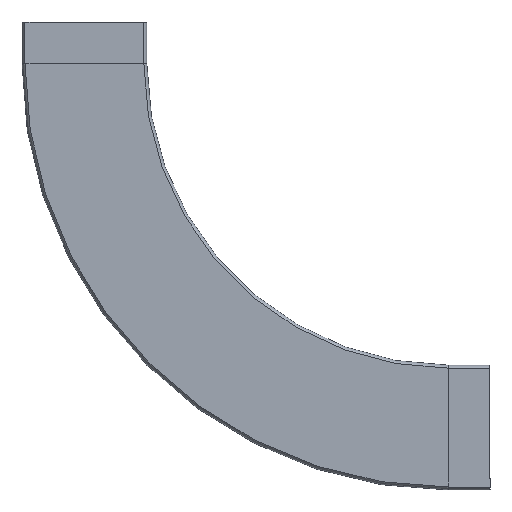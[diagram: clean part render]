
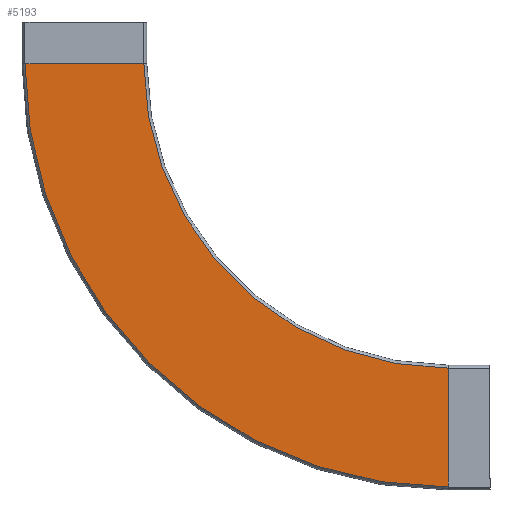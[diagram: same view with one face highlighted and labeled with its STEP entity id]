
A CAD part, front view. The second image highlights one B-rep face of the part: STEP entity #5193.
In plain terms, the highlighted planar face has unit normal (0, -1, 0).
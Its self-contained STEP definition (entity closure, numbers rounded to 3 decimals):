
#36 = DIRECTION ( 'NONE',  ( 0., 1., 0. ) ) ;
#72 = CARTESIAN_POINT ( 'NONE',  ( 350., -56.5, -40. ) ) ;
#200 = LINE ( 'NONE', #4228, #1975 ) ;
#205 = VERTEX_POINT ( 'NONE', #806 ) ;
#253 = CIRCLE ( 'NONE', #4535, 292.85 ) ;
#398 = VECTOR ( 'NONE', #874, 1000. ) ;
#401 = ORIENTED_EDGE ( 'NONE', *, *, #5624, .T. ) ;
#508 = DIRECTION ( 'NONE',  ( 0., 1., 0. ) ) ;
#806 = CARTESIAN_POINT ( 'NONE',  ( -57.15, -56.5, -40. ) ) ;
#874 = DIRECTION ( 'NONE',  ( -1., 0., 0. ) ) ;
#885 = LINE ( 'NONE', #3926, #398 ) ;
#958 = EDGE_CURVE ( 'NONE', #3505, #205, #4275, .T. ) ;
#1192 = DIRECTION ( 'NONE',  ( 0., 0., 1. ) ) ;
#1314 = VERTEX_POINT ( 'NONE', #2072 ) ;
#1398 = CARTESIAN_POINT ( 'NONE',  ( 350., -56.5, -447.15 ) ) ;
#1795 = EDGE_CURVE ( 'NONE', #3505, #1314, #200, .T. ) ;
#1975 = VECTOR ( 'NONE', #1192, 1000. ) ;
#2018 = DIRECTION ( 'NONE',  ( 0., 0., 1. ) ) ;
#2072 = CARTESIAN_POINT ( 'NONE',  ( 350., -56.5, -332.85 ) ) ;
#2224 = ORIENTED_EDGE ( 'NONE', *, *, #2365, .T. ) ;
#2294 = EDGE_LOOP ( 'NONE', ( #401, #2856, #3962, #2224 ) ) ;
#2302 = AXIS2_PLACEMENT_3D ( 'NONE', #2643, #36, #3544 ) ;
#2341 = DIRECTION ( 'NONE',  ( 0., 0., 1. ) ) ;
#2365 = EDGE_CURVE ( 'NONE', #1314, #2772, #253, .T. ) ;
#2643 = CARTESIAN_POINT ( 'NONE',  ( 350., -56.5, -332.85 ) ) ;
#2772 = VERTEX_POINT ( 'NONE', #5543 ) ;
#2856 = ORIENTED_EDGE ( 'NONE', *, *, #958, .F. ) ;
#2935 = FACE_OUTER_BOUND ( 'NONE', #2294, .T. ) ;
#3505 = VERTEX_POINT ( 'NONE', #1398 ) ;
#3544 = DIRECTION ( 'NONE',  ( 0., 0., 1. ) ) ;
#3926 = CARTESIAN_POINT ( 'NONE',  ( 0., -56.5, -40. ) ) ;
#3962 = ORIENTED_EDGE ( 'NONE', *, *, #1795, .T. ) ;
#4196 = CARTESIAN_POINT ( 'NONE',  ( 350., -56.5, -40. ) ) ;
#4228 = CARTESIAN_POINT ( 'NONE',  ( 350., -56.5, -332.85 ) ) ;
#4275 = CIRCLE ( 'NONE', #5680, 407.15 ) ;
#4535 = AXIS2_PLACEMENT_3D ( 'NONE', #4196, #4645, #2018 ) ;
#4645 = DIRECTION ( 'NONE',  ( 0., 1., 0. ) ) ;
#5193 = ADVANCED_FACE ( 'NONE', ( #2935 ), #5276, .F. ) ;
#5276 = PLANE ( 'NONE',  #2302 ) ;
#5543 = CARTESIAN_POINT ( 'NONE',  ( 57.15, -56.5, -40. ) ) ;
#5624 = EDGE_CURVE ( 'NONE', #2772, #205, #885, .T. ) ;
#5680 = AXIS2_PLACEMENT_3D ( 'NONE', #72, #508, #2341 ) ;
